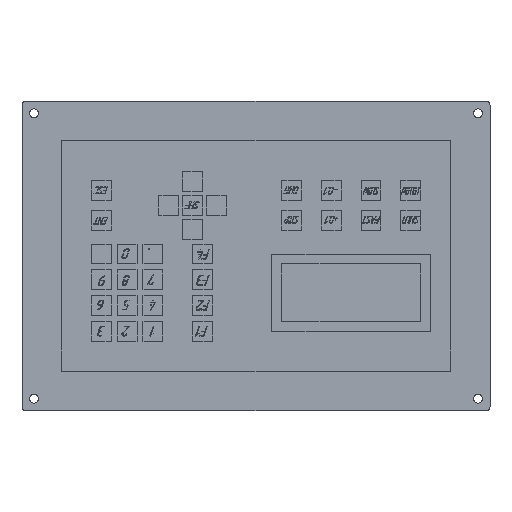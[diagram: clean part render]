
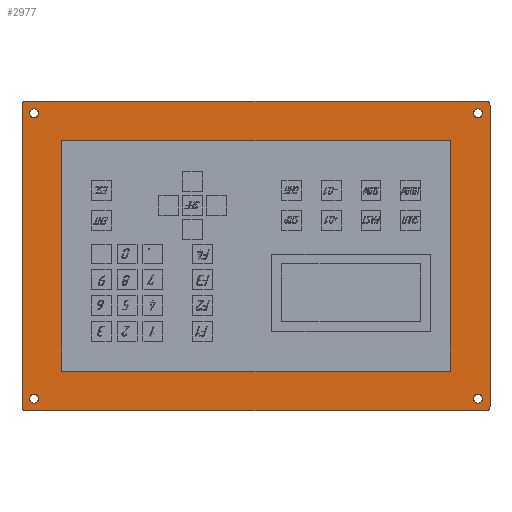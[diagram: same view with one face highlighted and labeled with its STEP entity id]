
A CAD part, top view. The second image highlights one B-rep face of the part: STEP entity #2977.
In plain terms, the highlighted planar face has unit normal (0, 0, 1).
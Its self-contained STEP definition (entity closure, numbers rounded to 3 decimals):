
#2977=ADVANCED_FACE('',(#23704,#23706,#23708,#23710,#23712,#23714),#23716,.T.);
#23704=FACE_BOUND('',#23705,.T.);
#23705=EDGE_LOOP('',(#40820,#40821,#40822,#40823,#40824,#40825,#40826,#40827));
#23706=FACE_BOUND('',#23707,.T.);
#23707=EDGE_LOOP('',(#40828,#40829,#40830,#40831));
#23708=FACE_BOUND('',#23709,.T.);
#23709=EDGE_LOOP('',(#40832));
#23710=FACE_BOUND('',#23711,.T.);
#23711=EDGE_LOOP('',(#40833));
#23712=FACE_BOUND('',#23713,.T.);
#23713=EDGE_LOOP('',(#40834));
#23714=FACE_BOUND('',#23715,.T.);
#23715=EDGE_LOOP('',(#40835));
#23716=PLANE('',#23717);
#23717=AXIS2_PLACEMENT_3D('',#23718,#23719,#23720);
#23718=CARTESIAN_POINT('',(0.,0.,42.));
#23719=DIRECTION('',(0.,0.,1.));
#23720=DIRECTION('',(-1.,0.,0.));
#40820=ORIENTED_EDGE('',*,*,#49404,.T.);
#40821=ORIENTED_EDGE('',*,*,#49405,.T.);
#40822=ORIENTED_EDGE('',*,*,#49406,.T.);
#40823=ORIENTED_EDGE('',*,*,#49407,.T.);
#40824=ORIENTED_EDGE('',*,*,#49408,.T.);
#40825=ORIENTED_EDGE('',*,*,#49409,.T.);
#40826=ORIENTED_EDGE('',*,*,#49410,.T.);
#40827=ORIENTED_EDGE('',*,*,#49411,.T.);
#40828=ORIENTED_EDGE('',*,*,#49356,.T.);
#40829=ORIENTED_EDGE('',*,*,#49363,.T.);
#40830=ORIENTED_EDGE('',*,*,#49361,.T.);
#40831=ORIENTED_EDGE('',*,*,#49359,.T.);
#40832=ORIENTED_EDGE('',*,*,#49412,.T.);
#40833=ORIENTED_EDGE('',*,*,#49413,.T.);
#40834=ORIENTED_EDGE('',*,*,#49414,.T.);
#40835=ORIENTED_EDGE('',*,*,#49415,.T.);
#49356=EDGE_CURVE('',#63496,#63497,#63498,.F.);
#49359=EDGE_CURVE('',#63501,#63496,#63502,.F.);
#49361=EDGE_CURVE('',#63504,#63501,#63505,.F.);
#49363=EDGE_CURVE('',#63497,#63504,#63507,.F.);
#49404=EDGE_CURVE('',#63568,#63569,#63570,.T.);
#49405=EDGE_CURVE('',#63569,#63571,#63572,.T.);
#49406=EDGE_CURVE('',#63571,#63573,#63574,.T.);
#49407=EDGE_CURVE('',#63573,#63575,#63576,.T.);
#49408=EDGE_CURVE('',#63575,#63577,#63578,.T.);
#49409=EDGE_CURVE('',#63577,#63579,#63580,.T.);
#49410=EDGE_CURVE('',#63579,#63581,#63582,.T.);
#49411=EDGE_CURVE('',#63581,#63568,#63583,.T.);
#49412=EDGE_CURVE('',#63584,#63584,#63585,.F.);
#49413=EDGE_CURVE('',#63586,#63586,#63587,.F.);
#49414=EDGE_CURVE('',#63588,#63588,#63589,.F.);
#49415=EDGE_CURVE('',#63590,#63590,#63591,.F.);
#63496=VERTEX_POINT('',#97732);
#63497=VERTEX_POINT('',#97733);
#63498=LINE('',#97734,#97735);
#63501=VERTEX_POINT('',#97743);
#63502=LINE('',#97744,#97745);
#63504=VERTEX_POINT('',#97750);
#63505=LINE('',#97751,#97752);
#63507=LINE('',#97757,#97758);
#63568=VERTEX_POINT('',#97900);
#63569=VERTEX_POINT('',#97901);
#63570=LINE('',#97902,#97903);
#63571=VERTEX_POINT('',#97905);
#63572=CIRCLE('',#97906,2.);
#63573=VERTEX_POINT('',#97910);
#63574=LINE('',#97911,#97912);
#63575=VERTEX_POINT('',#97914);
#63576=CIRCLE('',#97915,2.);
#63577=VERTEX_POINT('',#97919);
#63578=LINE('',#97920,#97921);
#63579=VERTEX_POINT('',#97923);
#63580=CIRCLE('',#97924,2.);
#63581=VERTEX_POINT('',#97928);
#63582=LINE('',#97929,#97930);
#63583=CIRCLE('',#97932,2.);
#63584=VERTEX_POINT('',#97936);
#63585=CIRCLE('',#97937,2.25);
#63586=VERTEX_POINT('',#97941);
#63587=CIRCLE('',#97942,2.25);
#63588=VERTEX_POINT('',#97946);
#63589=CIRCLE('',#97947,2.25);
#63590=VERTEX_POINT('',#97951);
#63591=CIRCLE('',#97952,2.25);
#97732=CARTESIAN_POINT('',(98.,58.,42.));
#97733=CARTESIAN_POINT('',(98.,-58.,42.));
#97734=CARTESIAN_POINT('',(98.,-58.,42.));
#97735=VECTOR('',#97736,1.);
#97736=DIRECTION('',(0.,1.,0.));
#97743=CARTESIAN_POINT('',(-98.,58.,42.));
#97744=CARTESIAN_POINT('',(98.,58.,42.));
#97745=VECTOR('',#97746,1.);
#97746=DIRECTION('',(-1.,0.,0.));
#97750=CARTESIAN_POINT('',(-98.,-58.,42.));
#97751=CARTESIAN_POINT('',(-98.,58.,42.));
#97752=VECTOR('',#97753,1.);
#97753=DIRECTION('',(0.,-1.,0.));
#97757=CARTESIAN_POINT('',(-98.,-58.,42.));
#97758=VECTOR('',#97759,1.);
#97759=DIRECTION('',(1.,0.,0.));
#97900=CARTESIAN_POINT('',(-116.,-78.,42.));
#97901=CARTESIAN_POINT('',(116.,-78.,42.));
#97902=CARTESIAN_POINT('',(-116.,-78.,42.));
#97903=VECTOR('',#97904,1.);
#97904=DIRECTION('',(1.,0.,0.));
#97905=CARTESIAN_POINT('',(118.,-76.,42.));
#97906=AXIS2_PLACEMENT_3D('',#97907,#97908,#97909);
#97907=CARTESIAN_POINT('',(116.,-76.,42.));
#97908=DIRECTION('',(0.,0.,1.));
#97909=DIRECTION('',(0.,-1.,0.));
#97910=CARTESIAN_POINT('',(118.,76.,42.));
#97911=CARTESIAN_POINT('',(118.,-76.,42.));
#97912=VECTOR('',#97913,1.);
#97913=DIRECTION('',(0.,1.,0.));
#97914=CARTESIAN_POINT('',(116.,78.,42.));
#97915=AXIS2_PLACEMENT_3D('',#97916,#97917,#97918);
#97916=CARTESIAN_POINT('',(116.,76.,42.));
#97917=DIRECTION('',(0.,0.,1.));
#97918=DIRECTION('',(1.,0.,0.));
#97919=CARTESIAN_POINT('',(-116.,78.,42.));
#97920=CARTESIAN_POINT('',(116.,78.,42.));
#97921=VECTOR('',#97922,1.);
#97922=DIRECTION('',(-1.,0.,0.));
#97923=CARTESIAN_POINT('',(-118.,76.,42.));
#97924=AXIS2_PLACEMENT_3D('',#97925,#97926,#97927);
#97925=CARTESIAN_POINT('',(-116.,76.,42.));
#97926=DIRECTION('',(0.,0.,1.));
#97927=DIRECTION('',(0.,1.,0.));
#97928=CARTESIAN_POINT('',(-118.,-76.,42.));
#97929=CARTESIAN_POINT('',(-118.,76.,42.));
#97930=VECTOR('',#97931,1.);
#97931=DIRECTION('',(0.,-1.,0.));
#97932=AXIS2_PLACEMENT_3D('',#97933,#97934,#97935);
#97933=CARTESIAN_POINT('',(-116.,-76.,42.));
#97934=DIRECTION('',(0.,0.,1.));
#97935=DIRECTION('',(-1.,0.,0.));
#97936=CARTESIAN_POINT('',(109.75,72.,42.));
#97937=AXIS2_PLACEMENT_3D('',#97938,#97939,#97940);
#97938=CARTESIAN_POINT('',(112.,72.,42.));
#97939=DIRECTION('',(0.,0.,1.));
#97940=DIRECTION('',(-1.,0.,0.));
#97941=CARTESIAN_POINT('',(-114.25,72.,42.));
#97942=AXIS2_PLACEMENT_3D('',#97943,#97944,#97945);
#97943=CARTESIAN_POINT('',(-112.,72.,42.));
#97944=DIRECTION('',(0.,0.,1.));
#97945=DIRECTION('',(-1.,0.,0.));
#97946=CARTESIAN_POINT('',(-114.25,-72.,42.));
#97947=AXIS2_PLACEMENT_3D('',#97948,#97949,#97950);
#97948=CARTESIAN_POINT('',(-112.,-72.,42.));
#97949=DIRECTION('',(0.,0.,1.));
#97950=DIRECTION('',(-1.,0.,0.));
#97951=CARTESIAN_POINT('',(109.75,-72.,42.));
#97952=AXIS2_PLACEMENT_3D('',#97953,#97954,#97955);
#97953=CARTESIAN_POINT('',(112.,-72.,42.));
#97954=DIRECTION('',(0.,0.,1.));
#97955=DIRECTION('',(-1.,0.,0.));
